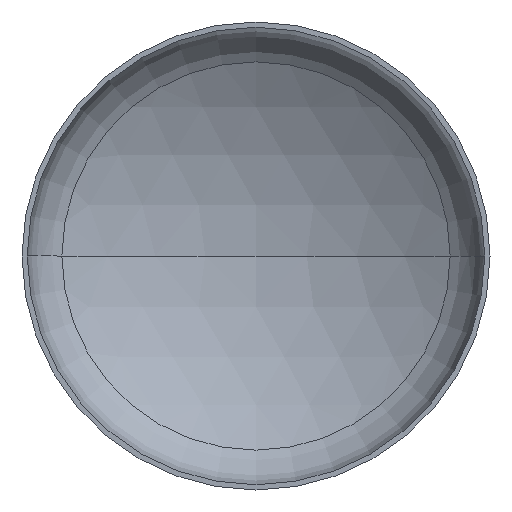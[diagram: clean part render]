
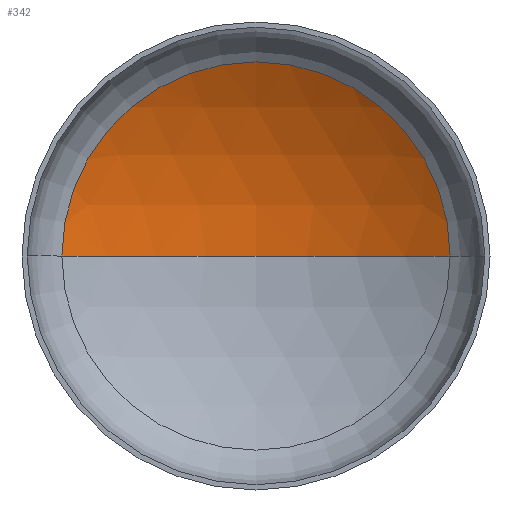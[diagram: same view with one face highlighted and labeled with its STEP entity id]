
A CAD part, front view. The second image highlights one B-rep face of the part: STEP entity #342.
In plain terms, the highlighted spherical face has radius 4400 mm.
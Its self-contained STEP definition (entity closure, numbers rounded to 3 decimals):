
#25 = SPHERICAL_SURFACE ( 'NONE', #403, 4400. ) ;
#26 = CARTESIAN_POINT ( 'NONE',  ( 0., -2919.963, 0. ) ) ;
#28 = VERTEX_POINT ( 'NONE', #270 ) ;
#32 = CARTESIAN_POINT ( 'NONE',  ( 0., 842.579, 0. ) ) ;
#33 = DIRECTION ( 'NONE',  ( 0., -1., 0. ) ) ;
#34 = DIRECTION ( 'NONE',  ( 1., 0., 0. ) ) ;
#41 = CIRCLE ( 'NONE', #375, 4400. ) ;
#55 = CARTESIAN_POINT ( 'NONE',  ( 0., -2919.963, 0. ) ) ;
#61 = DIRECTION ( 'NONE',  ( 0., 0., 1. ) ) ;
#64 = DIRECTION ( 'NONE',  ( 1., 0., 0. ) ) ;
#83 = DIRECTION ( 'NONE',  ( 0., 0., -1. ) ) ;
#86 = DIRECTION ( 'NONE',  ( -1., 0., 0. ) ) ;
#87 = CARTESIAN_POINT ( 'NONE',  ( 0., -2919.963, 0. ) ) ;
#98 = ORIENTED_EDGE ( 'NONE', *, *, #288, .T. ) ;
#111 = CARTESIAN_POINT ( 'NONE',  ( 2281.069, 842.579, 0. ) ) ;
#123 = ORIENTED_EDGE ( 'NONE', *, *, #303, .T. ) ;
#148 = VERTEX_POINT ( 'NONE', #111 ) ;
#155 = DIRECTION ( 'NONE',  ( -1., 0., 0. ) ) ;
#171 = EDGE_LOOP ( 'NONE', ( #194, #123, #98 ) ) ;
#187 = VERTEX_POINT ( 'NONE', #285 ) ;
#194 = ORIENTED_EDGE ( 'NONE', *, *, #341, .F. ) ;
#253 = CIRCLE ( 'NONE', #294, 2281.069 ) ;
#270 = CARTESIAN_POINT ( 'NONE',  ( 0., 1480.037, 0. ) ) ;
#285 = CARTESIAN_POINT ( 'NONE',  ( -2281.069, 842.579, 0. ) ) ;
#288 = EDGE_CURVE ( 'NONE', #148, #187, #253, .T. ) ;
#294 = AXIS2_PLACEMENT_3D ( 'NONE', #32, #33, #34 ) ;
#303 = EDGE_CURVE ( 'NONE', #28, #148, #313, .T. ) ;
#313 = CIRCLE ( 'NONE', #328, 4400. ) ;
#328 = AXIS2_PLACEMENT_3D ( 'NONE', #87, #387, #155 ) ;
#341 = EDGE_CURVE ( 'NONE', #28, #187, #41, .T. ) ;
#342 = ADVANCED_FACE ( 'NONE', ( #369 ), #25, .F. ) ;
#369 = FACE_OUTER_BOUND ( 'NONE', #171, .T. ) ;
#375 = AXIS2_PLACEMENT_3D ( 'NONE', #26, #61, #64 ) ;
#387 = DIRECTION ( 'NONE',  ( 0., 0., -1. ) ) ;
#403 = AXIS2_PLACEMENT_3D ( 'NONE', #55, #83, #86 ) ;
